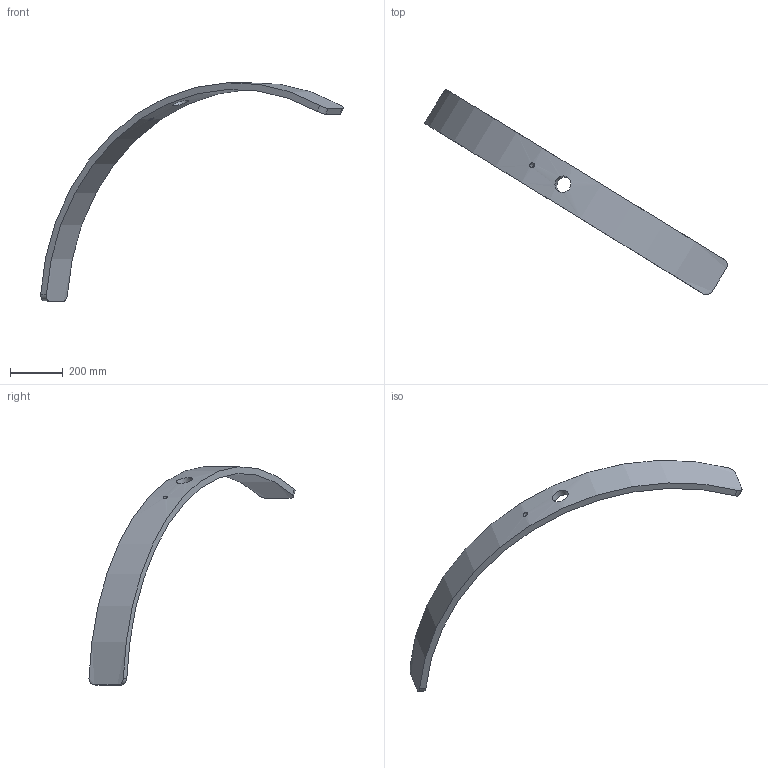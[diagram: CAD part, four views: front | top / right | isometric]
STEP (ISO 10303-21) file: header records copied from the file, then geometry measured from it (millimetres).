
FILE_DESCRIPTION (( 'STEP AP214' ), '1' );
FILE_NAME ('Section 7 AR.STEP', '2025-01-09T19:43:28', ( '' ), ( '' ), 'SwSTEP 2.0', 'SolidWorks 2024', '' );
FILE_SCHEMA (( 'AUTOMOTIVE_DESIGN' ));
Length unit declared in the file: inch
Products named in the file (1): Section 7 AR
Bounding box: 1147 x 780.81 x 827.56 mm (x, y, z)
Volume: 6518461.5 mm3; surface area: 613394 mm2
Topology: 1 solids, 1 shells, 12 faces, 30 edges, 20 vertices
Faces by surface type: cylinder 8, plane 4
Full cylindrical faces by diameter (mm): 19.431 x1, 63.5 x1
Entity records: 1017 total; most frequent: CARTESIAN_POINT 719, ORIENTED_EDGE 56, DIRECTION 46, EDGE_CURVE 28, VERTEX_POINT 20, EDGE_LOOP 18, AXIS2_PLACEMENT_3D 17, FACE_OUTER_BOUND 14
